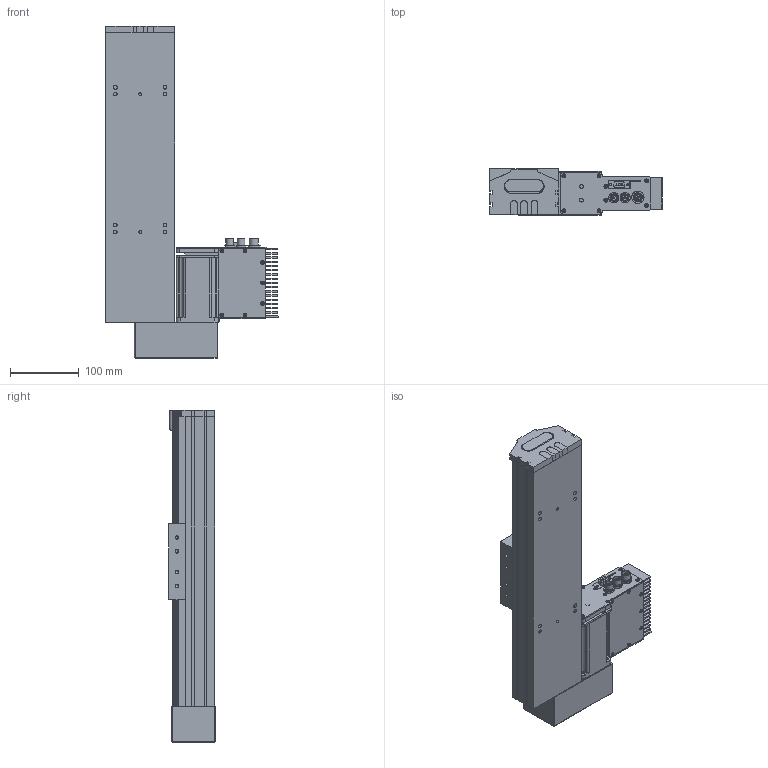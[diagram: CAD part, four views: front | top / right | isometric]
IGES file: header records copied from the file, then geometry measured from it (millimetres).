
Start section: SolidWorks IGES file using analytic representation for surfaces
Global section: file name: C:\Documents and Settings\1EDPI\Mes documents\yanize\S 10 TSH BR\S 10 TSH BR S200.IGS; native system: SolidWorks 2010; preprocessor: SolidWorks 2010; author: 1EDPI; date: 120904.141643; units: millimetre
Bounding box: 250.67 x 67.49 x 482 mm (x, y, z)
Surface area: 522711 mm2 (no closed solid volume)
Topology: 0 solids, 0 shells, 1948 faces, 25756 edges, 25724 vertices
Faces by surface type: revolution 1027, bspline 921
